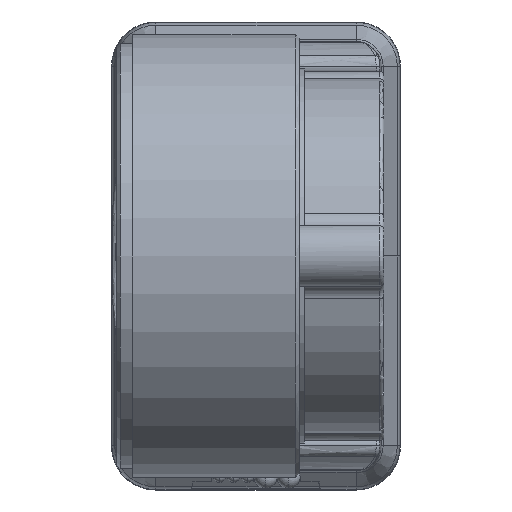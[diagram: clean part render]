
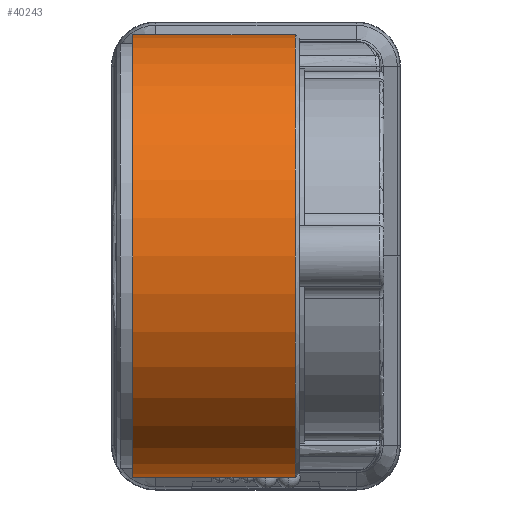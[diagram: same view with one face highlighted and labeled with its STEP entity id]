
A CAD part, front view. The second image highlights one B-rep face of the part: STEP entity #40243.
In plain terms, the highlighted cylindrical face has radius 17.5 mm (diameter 35 mm), a partial arc.
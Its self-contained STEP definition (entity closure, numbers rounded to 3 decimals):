
#1768 = EDGE_CURVE ( 'NONE', #35030, #9877, #21970, .T. ) ;
#3002 = CARTESIAN_POINT ( 'NONE',  ( -4.001, 0., 0. ) ) ;
#4625 = CARTESIAN_POINT ( 'NONE',  ( -2.55, 0., 0. ) ) ;
#7724 = ORIENTED_EDGE ( 'NONE', *, *, #1768, .F. ) ;
#7922 = VECTOR ( 'NONE', #31414, 1000. ) ;
#9343 = ORIENTED_EDGE ( 'NONE', *, *, #15939, .T. ) ;
#9877 = VERTEX_POINT ( 'NONE', #25128 ) ;
#10606 = VECTOR ( 'NONE', #25188, 1000. ) ;
#11034 = AXIS2_PLACEMENT_3D ( 'NONE', #4625, #28678, #28981 ) ;
#12220 = FACE_OUTER_BOUND ( 'NONE', #44394, .T. ) ;
#12231 = CARTESIAN_POINT ( 'NONE',  ( 10.3, 0., -17.5 ) ) ;
#14459 = VERTEX_POINT ( 'NONE', #26027 ) ;
#14907 = DIRECTION ( 'NONE',  ( 0., 0., 1. ) ) ;
#15420 = VERTEX_POINT ( 'NONE', #12231 ) ;
#15939 = EDGE_CURVE ( 'NONE', #15420, #9877, #41274, .T. ) ;
#17631 = LINE ( 'NONE', #35484, #10606 ) ;
#18830 = CARTESIAN_POINT ( 'NONE',  ( -2.55, 0., 17.5 ) ) ;
#19219 = AXIS2_PLACEMENT_3D ( 'NONE', #3002, #26681, #19897 ) ;
#19897 = DIRECTION ( 'NONE',  ( 0., 0., -1. ) ) ;
#20174 = ORIENTED_EDGE ( 'NONE', *, *, #29963, .T. ) ;
#21970 = LINE ( 'NONE', #34421, #7922 ) ;
#25128 = CARTESIAN_POINT ( 'NONE',  ( 10.3, 0., 17.5 ) ) ;
#25188 = DIRECTION ( 'NONE',  ( 1., 0., 0. ) ) ;
#26027 = CARTESIAN_POINT ( 'NONE',  ( -2.55, 0., -17.5 ) ) ;
#26681 = DIRECTION ( 'NONE',  ( 1., 0., 0. ) ) ;
#27272 = CYLINDRICAL_SURFACE ( 'NONE', #19219, 17.5 ) ;
#27298 = ORIENTED_EDGE ( 'NONE', *, *, #31377, .T. ) ;
#28678 = DIRECTION ( 'NONE',  ( 1., 0., 0. ) ) ;
#28981 = DIRECTION ( 'NONE',  ( 0., 0., 1. ) ) ;
#29963 = EDGE_CURVE ( 'NONE', #35030, #14459, #35695, .T. ) ;
#30948 = AXIS2_PLACEMENT_3D ( 'NONE', #42406, #39365, #14907 ) ;
#31377 = EDGE_CURVE ( 'NONE', #14459, #15420, #17631, .T. ) ;
#31414 = DIRECTION ( 'NONE',  ( 1., 0., 0. ) ) ;
#34421 = CARTESIAN_POINT ( 'NONE',  ( -4.001, 0., 17.5 ) ) ;
#35030 = VERTEX_POINT ( 'NONE', #18830 ) ;
#35484 = CARTESIAN_POINT ( 'NONE',  ( -4.001, 0., -17.5 ) ) ;
#35695 = CIRCLE ( 'NONE', #11034, 17.5 ) ;
#39365 = DIRECTION ( 'NONE',  ( -1., 0., 0. ) ) ;
#40243 = ADVANCED_FACE ( 'NONE', ( #12220 ), #27272, .T. ) ;
#41274 = CIRCLE ( 'NONE', #30948, 17.5 ) ;
#42406 = CARTESIAN_POINT ( 'NONE',  ( 10.3, 0., 0. ) ) ;
#44394 = EDGE_LOOP ( 'NONE', ( #7724, #20174, #27298, #9343 ) ) ;
